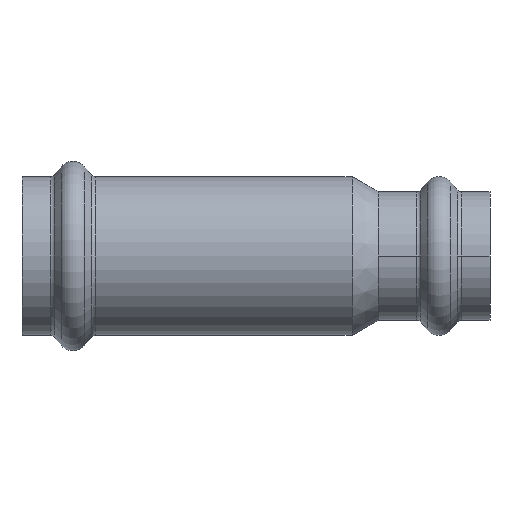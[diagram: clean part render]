
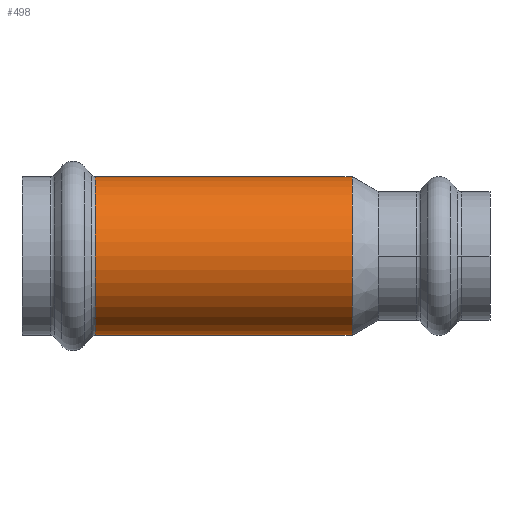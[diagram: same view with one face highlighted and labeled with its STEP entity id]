
A CAD part, front view. The second image highlights one B-rep face of the part: STEP entity #498.
In plain terms, the highlighted cylindrical face has radius 15.6 mm (diameter 31.2 mm), a partial arc.
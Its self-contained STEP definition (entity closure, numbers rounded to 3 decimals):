
#174 = CARTESIAN_POINT ( 'NONE',  ( 19.876, 0., -15.6 ) ) ;
#288 = AXIS2_PLACEMENT_3D ( 'NONE', #3893, #4258, #2060 ) ;
#317 = CARTESIAN_POINT ( 'NONE',  ( -30.606, 0., -15.6 ) ) ;
#477 = EDGE_LOOP ( 'NONE', ( #695, #2129, #3053, #4653 ) ) ;
#498 = ADVANCED_FACE ( 'NONE', ( #3018 ), #884, .T. ) ;
#695 = ORIENTED_EDGE ( 'NONE', *, *, #1524, .F. ) ;
#813 = CIRCLE ( 'NONE', #3941, 15.6 ) ;
#853 = VERTEX_POINT ( 'NONE', #174 ) ;
#884 = CYLINDRICAL_SURFACE ( 'NONE', #288, 15.6 ) ;
#958 = DIRECTION ( 'NONE',  ( 1., 0., 0. ) ) ;
#1271 = VECTOR ( 'NONE', #1506, 1000. ) ;
#1377 = LINE ( 'NONE', #3125, #3345 ) ;
#1506 = DIRECTION ( 'NONE',  ( -1., 0., 0. ) ) ;
#1524 = EDGE_CURVE ( 'NONE', #853, #1559, #3359, .T. ) ;
#1559 = VERTEX_POINT ( 'NONE', #317 ) ;
#1563 = DIRECTION ( 'NONE',  ( -1., 0., 0. ) ) ;
#1605 = CARTESIAN_POINT ( 'NONE',  ( -58.611, 0., -15.6 ) ) ;
#1714 = CIRCLE ( 'NONE', #2597, 15.6 ) ;
#2060 = DIRECTION ( 'NONE',  ( 0., 0., 1. ) ) ;
#2129 = ORIENTED_EDGE ( 'NONE', *, *, #3730, .F. ) ;
#2221 = CARTESIAN_POINT ( 'NONE',  ( 19.876, 0., 0. ) ) ;
#2546 = EDGE_CURVE ( 'NONE', #4929, #1559, #813, .T. ) ;
#2597 = AXIS2_PLACEMENT_3D ( 'NONE', #2221, #4826, #2614 ) ;
#2614 = DIRECTION ( 'NONE',  ( 0., 0., 1. ) ) ;
#3018 = FACE_OUTER_BOUND ( 'NONE', #477, .T. ) ;
#3053 = ORIENTED_EDGE ( 'NONE', *, *, #4225, .T. ) ;
#3125 = CARTESIAN_POINT ( 'NONE',  ( -58.611, 0., 15.6 ) ) ;
#3335 = CARTESIAN_POINT ( 'NONE',  ( -30.606, 0., 0. ) ) ;
#3345 = VECTOR ( 'NONE', #1563, 1000. ) ;
#3359 = LINE ( 'NONE', #1605, #1271 ) ;
#3698 = DIRECTION ( 'NONE',  ( 0., 0., -1. ) ) ;
#3722 = CARTESIAN_POINT ( 'NONE',  ( -30.606, 0., 15.6 ) ) ;
#3730 = EDGE_CURVE ( 'NONE', #4530, #853, #1714, .T. ) ;
#3893 = CARTESIAN_POINT ( 'NONE',  ( -58.611, 0., 0. ) ) ;
#3941 = AXIS2_PLACEMENT_3D ( 'NONE', #3335, #958, #3698 ) ;
#4012 = CARTESIAN_POINT ( 'NONE',  ( 19.876, 0., 15.6 ) ) ;
#4225 = EDGE_CURVE ( 'NONE', #4530, #4929, #1377, .T. ) ;
#4258 = DIRECTION ( 'NONE',  ( -1., 0., 0. ) ) ;
#4530 = VERTEX_POINT ( 'NONE', #4012 ) ;
#4653 = ORIENTED_EDGE ( 'NONE', *, *, #2546, .T. ) ;
#4826 = DIRECTION ( 'NONE',  ( 1., 0., 0. ) ) ;
#4929 = VERTEX_POINT ( 'NONE', #3722 ) ;
